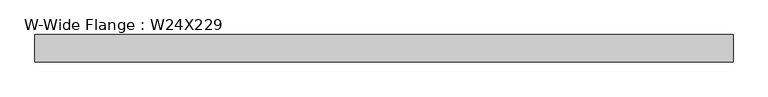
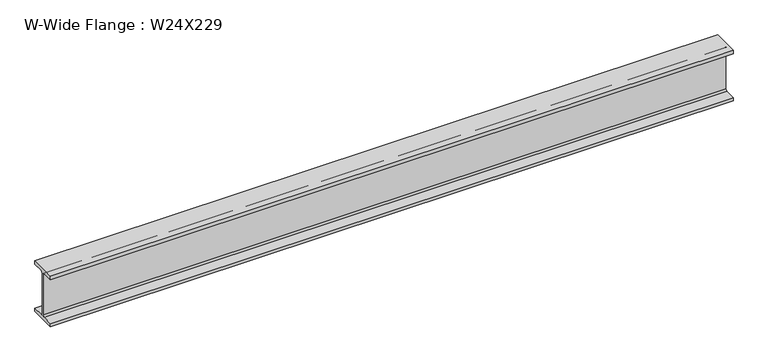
"""IFC4 building model written with IfcOpenShell, lengths in millimetres: beam geometry, W-Wide Flange : W24X229."""

from ifc_helpers import new_model, si_unit, point, frame, frame_2d, origin, place, context, project, spatial, polyline, circle_curve, trimmed, segment, composite_curve, outline, extrude, source, transform, mapped, element, save


def w_wide_flange_w24x229_264a0a21(model_context):
    return source(origin(), model_context, "Body", "SweptSolid", [
        extrude(outline(composite_curve([segment(polyline([(166.37, -286.258), (166.37, -330.2), (-166.37, -330.2), (-166.37, -286.258), (-34.925, -286.258)]), True, "CONTINUOUS"), segment(trimmed(circle_curve(frame_2d((-34.925, -263.525)), 22.733), [point((-34.925, -286.258))], [point((-12.192, -263.525))], True, "CARTESIAN"), True, "CONTINUOUS"), segment(polyline([(-12.192, -263.525), (-12.192, 263.525)]), True, "CONTINUOUS"), segment(trimmed(circle_curve(frame_2d((-34.925, 263.525)), 22.733), [point((-12.192, 263.525))], [point((-34.925, 286.258))], True, "CARTESIAN"), True, "CONTINUOUS"), segment(polyline([(-34.925, 286.258), (-166.37, 286.258), (-166.37, 330.2), (166.37, 330.2), (166.37, 286.258), (34.925, 286.258)]), True, "CONTINUOUS"), segment(trimmed(circle_curve(frame_2d((34.925, 263.525)), 22.733), [point((34.925, 286.258))], [point((12.192, 263.525))], True, "CARTESIAN"), True, "CONTINUOUS"), segment(polyline([(12.192, 263.525), (12.192, -263.525)]), True, "CONTINUOUS"), segment(trimmed(circle_curve(frame_2d((34.925, -263.525)), 22.733), [point((12.192, -263.525))], [point((34.925, -286.258))], True, "CARTESIAN"), True, "CONTINUOUS"), segment(polyline([(34.925, -286.258), (166.37, -286.258)]), True, "CONTINUOUS")], self_intersect=False)), frame((-4220.21, 0.0, 0.0), z_axis=(1.0, 0.0, 0.0), x_axis=(0.0, 1.0, 0.0)), (0.0, 0.0, 1.0), 8440.42),
    ])


if __name__ == "__main__":
    model = new_model("IFC4")
    model_context = context("Model", 3, world=origin())
    ifc_project = project(units=[si_unit("LENGTHUNIT", "METRE", prefix="MILLI")], contexts=[model_context])
    site = spatial("IfcSite", under=ifc_project)
    building = spatial("IfcBuilding", under=site)
    placement = place(None, origin())
    w_wide_flange_w24x229_shape = w_wide_flange_w24x229_264a0a21(model_context)
    element("IfcBeam", 1, ObjectType="W-Wide Flange : W24X229", at=placement, inside=building, context=model_context, shape_type="MappedRepresentation", body=[
        mapped(w_wide_flange_w24x229_shape, transform((0.0, 0.0, 0.0), x_axis=(1.0, 0.0, 0.0), y_axis=(0.0, 1.0, 0.0), z_axis=(0.0, 0.0, 1.0))),
    ])
    save(model, "model.ifc")
